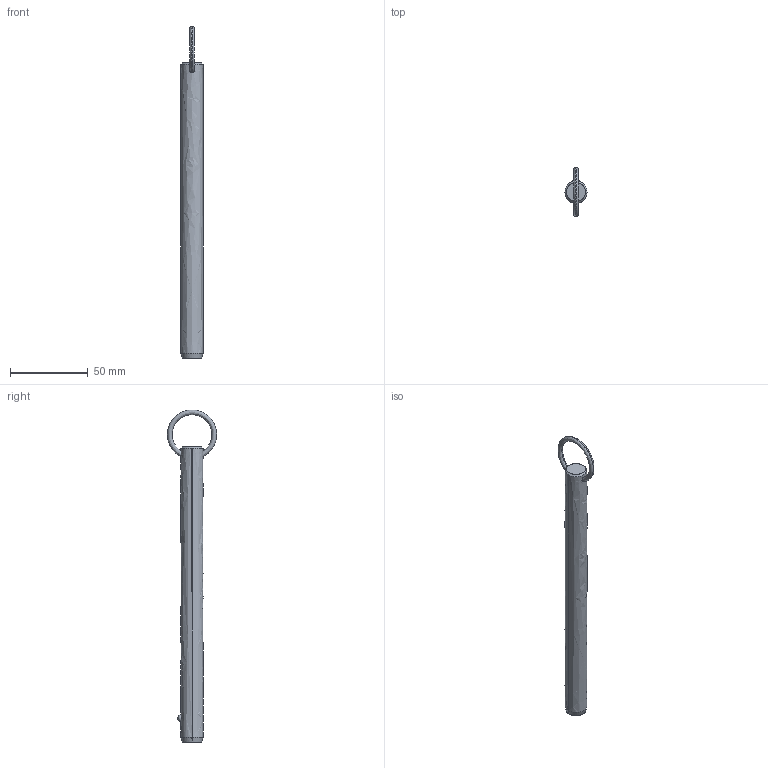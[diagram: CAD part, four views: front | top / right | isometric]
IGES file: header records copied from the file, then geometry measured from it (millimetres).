
Start section: SolidWorks IGES file using analytic representation for surfaces
Global section: file name: C:\Users\liam_\OneDrive\Documents\WORK\Work for WixRoyd\Job Files\J-00019 - Matt Davis CAD Checking\04. CAD Drawings\automotion20190605\P1250.2_v2\P1250.2_v2_20190729_IGES\P1250.056-650.igs; native system: SolidWorks 2017; preprocessor: SolidWorks 2017; author: liam_; date: 190729.232813; units: millimetre
Bounding box: 14.2 x 31.7 x 214.2 mm (x, y, z)
Surface area: 9459.7 mm2 (no closed solid volume)
Topology: 0 solids, 0 shells, 12 faces, 285 edges, 283 vertices
Faces by surface type: revolution 8, bspline 4
